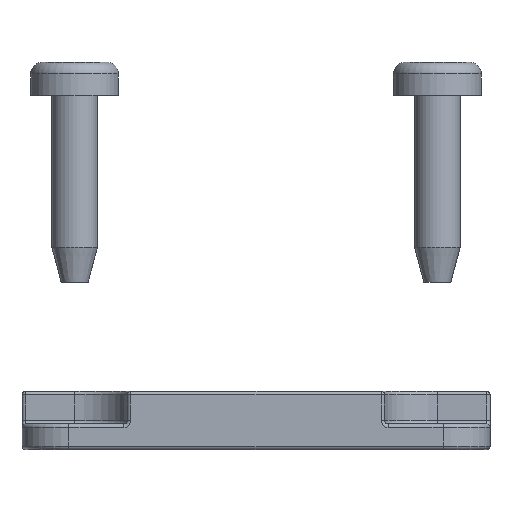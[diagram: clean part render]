
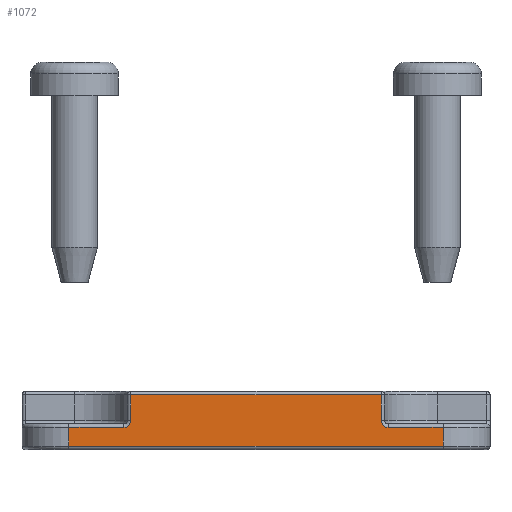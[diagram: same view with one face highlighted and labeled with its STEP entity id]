
A CAD part, front view. The second image highlights one B-rep face of the part: STEP entity #1072.
In plain terms, the highlighted planar face has unit normal (0, -1, 0).
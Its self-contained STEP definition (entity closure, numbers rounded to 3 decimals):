
#308 = CARTESIAN_POINT ( 'NONE',  ( -10.7, -20., 5. ) ) ;
#362 = EDGE_CURVE ( 'NONE', #9533, #2870, #4915, .T. ) ;
#434 = CARTESIAN_POINT ( 'NONE',  ( 10.7, -20., 4.7 ) ) ;
#526 = CARTESIAN_POINT ( 'NONE',  ( 16., -20., 0.3 ) ) ;
#527 = DIRECTION ( 'NONE',  ( 0., 0., 1. ) ) ;
#655 = AXIS2_PLACEMENT_3D ( 'NONE', #1043, #6307, #1790 ) ;
#695 = EDGE_CURVE ( 'NONE', #2870, #6177, #6234, .T. ) ;
#746 = CARTESIAN_POINT ( 'NONE',  ( -10.7, -20., 2.5 ) ) ;
#763 = ORIENTED_EDGE ( 'NONE', *, *, #8793, .T. ) ;
#891 = PLANE ( 'NONE',  #3182 ) ;
#988 = ORIENTED_EDGE ( 'NONE', *, *, #9549, .T. ) ;
#1027 = DIRECTION ( 'NONE',  ( -1., 0., 0. ) ) ;
#1043 = CARTESIAN_POINT ( 'NONE',  ( -11.3, -20., 2.5 ) ) ;
#1052 = CARTESIAN_POINT ( 'NONE',  ( -20., -20., 1.9 ) ) ;
#1072 = ADVANCED_FACE ( 'NONE', ( #2746 ), #891, .F. ) ;
#1112 = ORIENTED_EDGE ( 'NONE', *, *, #362, .T. ) ;
#1219 = ORIENTED_EDGE ( 'NONE', *, *, #695, .T. ) ;
#1263 = EDGE_CURVE ( 'NONE', #9160, #6177, #3103, .T. ) ;
#1272 = LINE ( 'NONE', #1052, #7155 ) ;
#1352 = ORIENTED_EDGE ( 'NONE', *, *, #1263, .F. ) ;
#1438 = LINE ( 'NONE', #3732, #6148 ) ;
#1512 = CARTESIAN_POINT ( 'NONE',  ( 16., -20., 5. ) ) ;
#1560 = CIRCLE ( 'NONE', #655, 0.6 ) ;
#1772 = EDGE_CURVE ( 'NONE', #9160, #5563, #9250, .T. ) ;
#1790 = DIRECTION ( 'NONE',  ( 0., 0., 1. ) ) ;
#1972 = AXIS2_PLACEMENT_3D ( 'NONE', #9842, #5032, #527 ) ;
#2029 = DIRECTION ( 'NONE',  ( 0., 0., -1. ) ) ;
#2210 = EDGE_CURVE ( 'NONE', #5563, #7169, #1438, .T. ) ;
#2390 = DIRECTION ( 'NONE',  ( 0., 0., 1. ) ) ;
#2402 = DIRECTION ( 'NONE',  ( 0., 1., 0. ) ) ;
#2450 = ORIENTED_EDGE ( 'NONE', *, *, #1772, .T. ) ;
#2468 = VECTOR ( 'NONE', #1027, 1000. ) ;
#2538 = CARTESIAN_POINT ( 'NONE',  ( -20., -20., 1.9 ) ) ;
#2564 = DIRECTION ( 'NONE',  ( -1., 0., 0. ) ) ;
#2611 = VECTOR ( 'NONE', #5567, 1000. ) ;
#2746 = FACE_OUTER_BOUND ( 'NONE', #8817, .T. ) ;
#2747 = ORIENTED_EDGE ( 'NONE', *, *, #2210, .T. ) ;
#2776 = EDGE_CURVE ( 'NONE', #7169, #5756, #8587, .T. ) ;
#2785 = VERTEX_POINT ( 'NONE', #6354 ) ;
#2870 = VERTEX_POINT ( 'NONE', #4853 ) ;
#2890 = ORIENTED_EDGE ( 'NONE', *, *, #2776, .T. ) ;
#2992 = ORIENTED_EDGE ( 'NONE', *, *, #3288, .F. ) ;
#3103 = CIRCLE ( 'NONE', #1972, 0.6 ) ;
#3182 = AXIS2_PLACEMENT_3D ( 'NONE', #9432, #2402, #7823 ) ;
#3222 = VECTOR ( 'NONE', #2390, 1000. ) ;
#3288 = EDGE_CURVE ( 'NONE', #3626, #5756, #1560, .T. ) ;
#3514 = VECTOR ( 'NONE', #9324, 1000. ) ;
#3626 = VERTEX_POINT ( 'NONE', #7697 ) ;
#3732 = CARTESIAN_POINT ( 'NONE',  ( -20., -20., 4.7 ) ) ;
#4049 = ORIENTED_EDGE ( 'NONE', *, *, #4411, .T. ) ;
#4240 = CARTESIAN_POINT ( 'NONE',  ( -10.7, -20., 4.7 ) ) ;
#4411 = EDGE_CURVE ( 'NONE', #3626, #6410, #1272, .T. ) ;
#4853 = CARTESIAN_POINT ( 'NONE',  ( 16., -20., 1.9 ) ) ;
#4915 = LINE ( 'NONE', #1512, #3514 ) ;
#5032 = DIRECTION ( 'NONE',  ( 0., -1., 0. ) ) ;
#5368 = CARTESIAN_POINT ( 'NONE',  ( 10.7, -20., 5. ) ) ;
#5557 = CARTESIAN_POINT ( 'NONE',  ( 11.3, -20., 1.9 ) ) ;
#5563 = VERTEX_POINT ( 'NONE', #434 ) ;
#5567 = DIRECTION ( 'NONE',  ( 0., 0., -1. ) ) ;
#5756 = VERTEX_POINT ( 'NONE', #746 ) ;
#6148 = VECTOR ( 'NONE', #9279, 1000. ) ;
#6177 = VERTEX_POINT ( 'NONE', #5557 ) ;
#6180 = CARTESIAN_POINT ( 'NONE',  ( 10.7, -20., 2.5 ) ) ;
#6234 = LINE ( 'NONE', #2538, #2468 ) ;
#6307 = DIRECTION ( 'NONE',  ( 0., -1., 0. ) ) ;
#6354 = CARTESIAN_POINT ( 'NONE',  ( -16., -20., 0.3 ) ) ;
#6410 = VERTEX_POINT ( 'NONE', #6809 ) ;
#6809 = CARTESIAN_POINT ( 'NONE',  ( -16., -20., 1.9 ) ) ;
#7155 = VECTOR ( 'NONE', #2564, 1000. ) ;
#7169 = VERTEX_POINT ( 'NONE', #4240 ) ;
#7697 = CARTESIAN_POINT ( 'NONE',  ( -11.3, -20., 1.9 ) ) ;
#7823 = DIRECTION ( 'NONE',  ( 0., 0., 1. ) ) ;
#8587 = LINE ( 'NONE', #308, #2611 ) ;
#8793 = EDGE_CURVE ( 'NONE', #6410, #2785, #9631, .T. ) ;
#8802 = LINE ( 'NONE', #526, #8819 ) ;
#8817 = EDGE_LOOP ( 'NONE', ( #763, #988, #1112, #1219, #1352, #2450, #2747, #2890, #2992, #4049 ) ) ;
#8819 = VECTOR ( 'NONE', #8969, 1000. ) ;
#8969 = DIRECTION ( 'NONE',  ( 1., 0., 0. ) ) ;
#9047 = CARTESIAN_POINT ( 'NONE',  ( 16., -20., 0.3 ) ) ;
#9160 = VERTEX_POINT ( 'NONE', #6180 ) ;
#9250 = LINE ( 'NONE', #5368, #3222 ) ;
#9279 = DIRECTION ( 'NONE',  ( -1., 0., 0. ) ) ;
#9324 = DIRECTION ( 'NONE',  ( 0., 0., 1. ) ) ;
#9432 = CARTESIAN_POINT ( 'NONE',  ( -20., -20., 5. ) ) ;
#9533 = VERTEX_POINT ( 'NONE', #9047 ) ;
#9549 = EDGE_CURVE ( 'NONE', #2785, #9533, #8802, .T. ) ;
#9606 = VECTOR ( 'NONE', #2029, 1000. ) ;
#9631 = LINE ( 'NONE', #9822, #9606 ) ;
#9822 = CARTESIAN_POINT ( 'NONE',  ( -16., -20., 5. ) ) ;
#9842 = CARTESIAN_POINT ( 'NONE',  ( 11.3, -20., 2.5 ) ) ;
